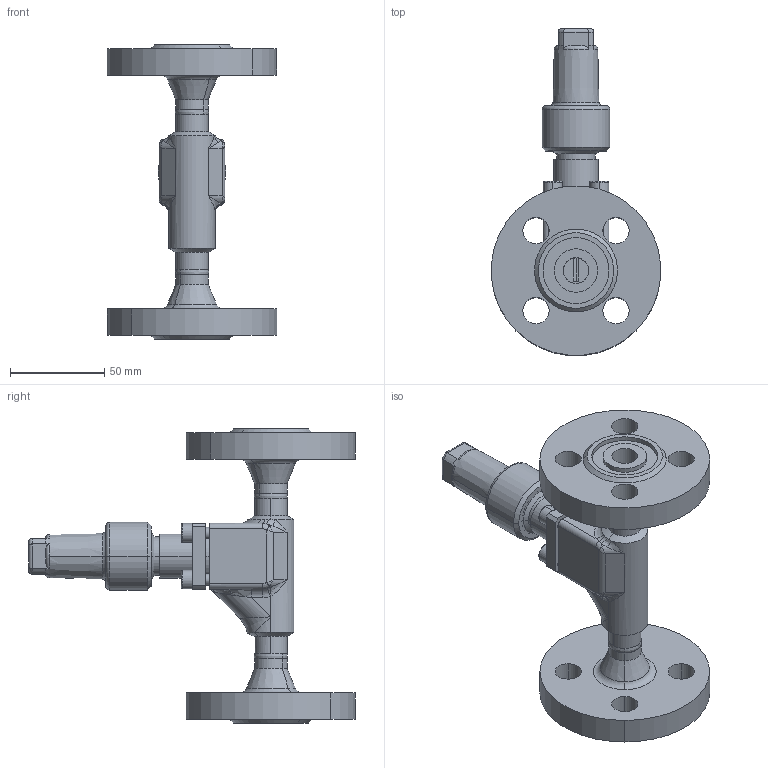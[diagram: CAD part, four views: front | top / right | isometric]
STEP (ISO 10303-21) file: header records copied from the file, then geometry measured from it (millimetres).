
FILE_DESCRIPTION (( 'STEP AP214' ), '1' );
FILE_NAME ('AVR96320-DN010_DIN-FL-N_PS40.STEP', '2006-05-02T07:54:26', ( 'Herr Grams' ), ( 'AWP GmbH' ), 'SwSTEP 2.0', 'SolidWorks 2002296', '' );
FILE_SCHEMA (( 'AUTOMOTIVE_DESIGN' ));
Length unit declared in the file: millimetre
Products named in the file (10): AVR96320-DN010_DIN-FL-N_PS40; AVR96300E10_Deck+Schr-DN6-15_Standard; Deckel96300E10-DN6-15_PS40_Standard; Zylinderschraube-DIN912_M 6x 18; Geh-kpl96320E08-DN10_PS40_DIN-FL_Standard; Gehäuse96300E08-DN10_PS40_R1_Standard; Flansch-DIN2635-Nut_PS40_DIN-Flansch-DN010_PS40-Nut; bead963-DN010-2_Standard; bead963-DN010-1_Standard; Kappe96300E10_DN6-20_Standard
Assembly tree (13 placements, depth 3):
  AVR96320-DN010_DIN-FL-N_PS40
    Kappe96300E10_DN6-20_Standard
    AVR96300E10_Deck+Schr-DN6-15_Standard
      Zylinderschraube-DIN912_M 6x 18  x4
      Deckel96300E10-DN6-15_PS40_Standard
    Geh-kpl96320E08-DN10_PS40_DIN-FL_Standard
      Flansch-DIN2635-Nut_PS40_DIN-Flansch-DN010_PS40-Nut  x2
      bead963-DN010-2_Standard
      bead963-DN010-1_Standard
      Gehäuse96300E08-DN10_PS40_R1_Standard
Bounding box: 89.66 x 173.33 x 156 mm (x, y, z)
Volume: 273422.2 mm3; surface area: 77484.7 mm2
Topology: 11 solids, 11 shells, 346 faces, 804 edges, 493 vertices
Faces by surface type: cylinder 130, plane 102, cone 49, bspline 37, torus 28
Entity records: 21663 total; most frequent: CARTESIAN_POINT 15074, ORIENTED_EDGE 1220, DIRECTION 1194, EDGE_CURVE 610, AXIS2_PLACEMENT_3D 497, VERTEX_POINT 375, EDGE_LOOP 297, FACE_OUTER_BOUND 260
